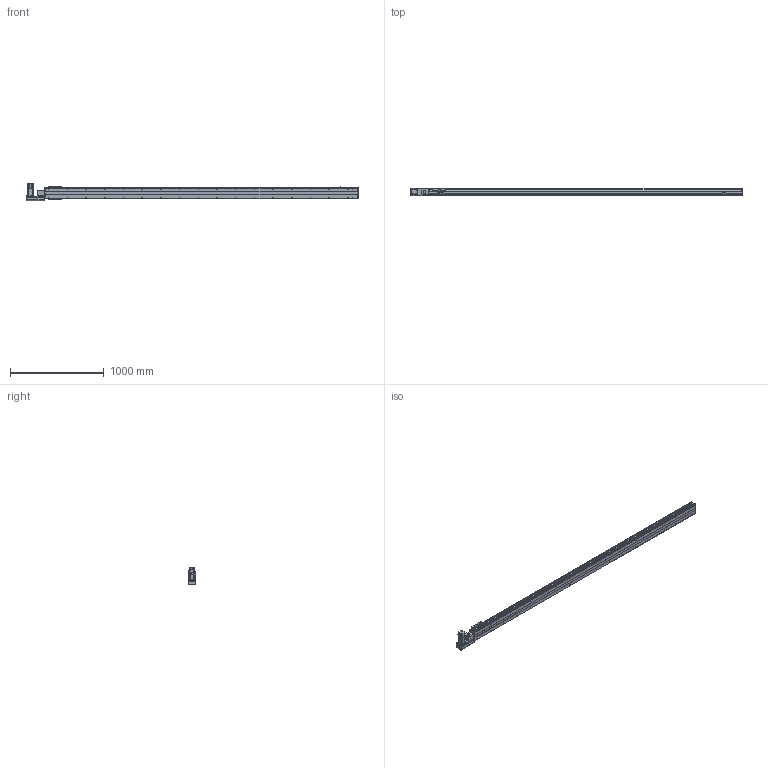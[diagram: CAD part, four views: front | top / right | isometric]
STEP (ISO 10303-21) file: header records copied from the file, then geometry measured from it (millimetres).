
FILE_DESCRIPTION(/* description */ ('STEP AP214'),/* implementation_level */ '2;1');
FILE_NAME(/* name */ 'PBS120-P40-S3050-L-T40-C1-N(0)',/* time_stamp */ '2022-06-05T02:30:54+02:00',/* author */ ('License CC BY-ND 4.0'),/* organization */ ('CADENAS'),/* preprocessor_version */ 'ST-DEVELOPER v18.102',/* originating_system */ 'PARTsolutions',/* authorisation */ ' ');
FILE_SCHEMA (('AUTOMOTIVE_DESIGN {1 0 10303 214 3 1 1}'));
Length unit declared in the file: millimetre
Products named in the file (7): PBS120-P40-S3050-L-T40-C1-N(0); PBS120_sensor; PBS120_plant; PBS120_sliser; T40-p1; PBS120T-L_motors; PBS120-S3050()_body
Assembly tree (8 placements, depth 2):
  PBS120-P40-S3050-L-T40-C1-N(0)
    PBS120_sensor  x3
    PBS120_plant
    PBS120_sliser
    T40-p1
    PBS120T-L_motors
    PBS120-S3050()_body
Bounding box: 3551 x 83 x 189.7 mm (x, y, z)
Volume: 12633735.5 mm3; surface area: 2636138.2 mm2
Topology: 8 solids, 8 shells, 888 faces, 2256 edges, 1447 vertices
Faces by surface type: plane 569, cylinder 249, cone 68, torus 2
Full cylindrical faces by diameter (mm): 2.459 x6, 3.242 x4, 4 x2, 4.134 x4, 4.5 x10, 4.917 x40, 5.5 x11, 6 x2, 6.6 x1, 7 x2, 8.5 x4, 9 x4, 12 x1, 14 x1, 30 x2, 40 x1, 50 x2
Entity records: 22794 total; most frequent: DIRECTION 3980, CARTESIAN_POINT 3857, ORIENTED_EDGE 3622, EDGE_CURVE 1811, AXIS2_PLACEMENT_3D 1376, VERTEX_POINT 1253, LINE 1228, VECTOR 1228
